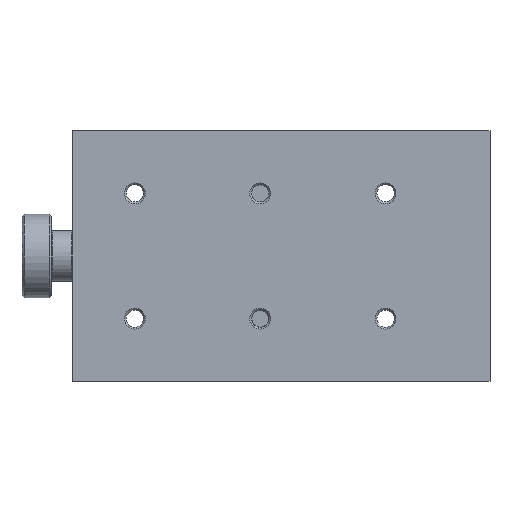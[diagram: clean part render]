
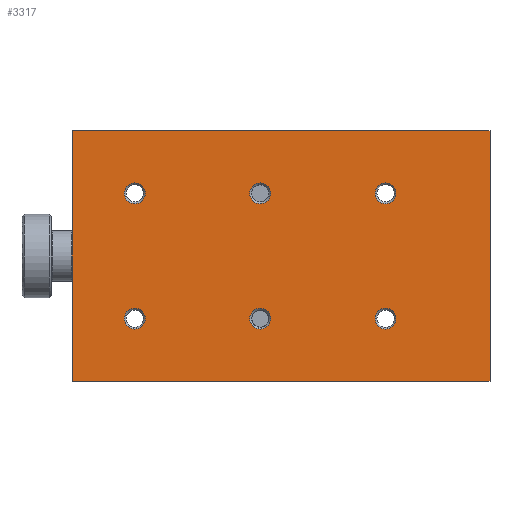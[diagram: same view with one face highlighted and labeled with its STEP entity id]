
A CAD part, front view. The second image highlights one B-rep face of the part: STEP entity #3317.
In plain terms, the highlighted planar face has unit normal (0, -1, 0).
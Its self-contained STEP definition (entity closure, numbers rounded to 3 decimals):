
#14 = LINE ( 'NONE', #4352, #62 ) ;
#62 = VECTOR ( 'NONE', #6006, 1000. ) ;
#156 = CARTESIAN_POINT ( 'NONE',  ( 75., 0., 17.5 ) ) ;
#166 = AXIS2_PLACEMENT_3D ( 'NONE', #4235, #6484, #228 ) ;
#197 = DIRECTION ( 'NONE',  ( 0., 0., 1. ) ) ;
#209 = CARTESIAN_POINT ( 'NONE',  ( 75., 0., 15. ) ) ;
#218 = ORIENTED_EDGE ( 'NONE', *, *, #6522, .T. ) ;
#225 = VERTEX_POINT ( 'NONE', #1789 ) ;
#228 = DIRECTION ( 'NONE',  ( 0., 0., 1. ) ) ;
#273 = ORIENTED_EDGE ( 'NONE', *, *, #6523, .T. ) ;
#294 = AXIS2_PLACEMENT_3D ( 'NONE', #2532, #2011, #4770 ) ;
#414 = CIRCLE ( 'NONE', #1100, 2.5 ) ;
#455 = CARTESIAN_POINT ( 'NONE',  ( 15., 0., -17.5 ) ) ;
#576 = DIRECTION ( 'NONE',  ( 0., 1., 0. ) ) ;
#657 = CARTESIAN_POINT ( 'NONE',  ( 15., 0., -12.5 ) ) ;
#687 = CIRCLE ( 'NONE', #5347, 2.5 ) ;
#699 = CARTESIAN_POINT ( 'NONE',  ( 75., 0., -15. ) ) ;
#748 = EDGE_LOOP ( 'NONE', ( #5829, #3201 ) ) ;
#788 = LINE ( 'NONE', #5235, #2913 ) ;
#823 = CARTESIAN_POINT ( 'NONE',  ( 0., 0., -30. ) ) ;
#848 = DIRECTION ( 'NONE',  ( 0., 1., 0. ) ) ;
#918 = CARTESIAN_POINT ( 'NONE',  ( 0., 0., 30. ) ) ;
#939 = EDGE_CURVE ( 'NONE', #3228, #4889, #14, .T. ) ;
#1058 = CIRCLE ( 'NONE', #1986, 2.5 ) ;
#1092 = DIRECTION ( 'NONE',  ( 0., 0., 1. ) ) ;
#1095 = DIRECTION ( 'NONE',  ( 0., 0., 1. ) ) ;
#1100 = AXIS2_PLACEMENT_3D ( 'NONE', #3848, #7103, #3382 ) ;
#1115 = DIRECTION ( 'NONE',  ( 0., 1., 0. ) ) ;
#1191 = VERTEX_POINT ( 'NONE', #1436 ) ;
#1246 = EDGE_CURVE ( 'NONE', #5126, #4408, #3604, .T. ) ;
#1382 = CARTESIAN_POINT ( 'NONE',  ( 45., 0., 12.5 ) ) ;
#1418 = EDGE_LOOP ( 'NONE', ( #5630, #2994, #3307, #3656 ) ) ;
#1436 = CARTESIAN_POINT ( 'NONE',  ( 75., 0., -12.5 ) ) ;
#1469 = FACE_BOUND ( 'NONE', #6043, .T. ) ;
#1653 = EDGE_CURVE ( 'NONE', #6603, #4889, #5481, .T. ) ;
#1672 = ORIENTED_EDGE ( 'NONE', *, *, #3951, .T. ) ;
#1726 = ORIENTED_EDGE ( 'NONE', *, *, #7126, .T. ) ;
#1789 = CARTESIAN_POINT ( 'NONE',  ( 0., 0., 30. ) ) ;
#1797 = VECTOR ( 'NONE', #3822, 1000. ) ;
#1905 = CARTESIAN_POINT ( 'NONE',  ( 75., 0., 12.5 ) ) ;
#1935 = VERTEX_POINT ( 'NONE', #1382 ) ;
#1962 = CARTESIAN_POINT ( 'NONE',  ( 45., 0., -15. ) ) ;
#1986 = AXIS2_PLACEMENT_3D ( 'NONE', #5874, #3325, #1092 ) ;
#2009 = EDGE_LOOP ( 'NONE', ( #5190, #218 ) ) ;
#2011 = DIRECTION ( 'NONE',  ( 0., 1., 0. ) ) ;
#2038 = DIRECTION ( 'NONE',  ( 0., 1., 0. ) ) ;
#2106 = PLANE ( 'NONE',  #5834 ) ;
#2240 = DIRECTION ( 'NONE',  ( 0., 1., 0. ) ) ;
#2301 = CARTESIAN_POINT ( 'NONE',  ( 75., 0., -15. ) ) ;
#2434 = DIRECTION ( 'NONE',  ( 1., 0., 0. ) ) ;
#2454 = CIRCLE ( 'NONE', #294, 2.5 ) ;
#2532 = CARTESIAN_POINT ( 'NONE',  ( 45., 0., -15. ) ) ;
#2565 = DIRECTION ( 'NONE',  ( 0., 0., 1. ) ) ;
#2570 = VERTEX_POINT ( 'NONE', #6294 ) ;
#2584 = VERTEX_POINT ( 'NONE', #1905 ) ;
#2668 = FACE_BOUND ( 'NONE', #2009, .T. ) ;
#2671 = LINE ( 'NONE', #3263, #1797 ) ;
#2762 = ORIENTED_EDGE ( 'NONE', *, *, #6256, .T. ) ;
#2767 = DIRECTION ( 'NONE',  ( 0., 0., 1. ) ) ;
#2913 = VECTOR ( 'NONE', #2434, 1000. ) ;
#2994 = ORIENTED_EDGE ( 'NONE', *, *, #1653, .T. ) ;
#3075 = CIRCLE ( 'NONE', #6116, 2.5 ) ;
#3139 = EDGE_LOOP ( 'NONE', ( #6329, #7064 ) ) ;
#3201 = ORIENTED_EDGE ( 'NONE', *, *, #4612, .T. ) ;
#3228 = VERTEX_POINT ( 'NONE', #5523 ) ;
#3239 = EDGE_CURVE ( 'NONE', #1935, #4542, #6757, .T. ) ;
#3263 = CARTESIAN_POINT ( 'NONE',  ( 0., 0., 30. ) ) ;
#3307 = ORIENTED_EDGE ( 'NONE', *, *, #939, .F. ) ;
#3314 = DIRECTION ( 'NONE',  ( 0., 0., 1. ) ) ;
#3317 = ADVANCED_FACE ( 'NONE', ( #2668, #1469, #3664, #5441, #5980, #7112, #5907 ), #2106, .F. ) ;
#3325 = DIRECTION ( 'NONE',  ( 0., 1., 0. ) ) ;
#3382 = DIRECTION ( 'NONE',  ( 0., 0., 1. ) ) ;
#3413 = AXIS2_PLACEMENT_3D ( 'NONE', #1962, #2038, #3579 ) ;
#3579 = DIRECTION ( 'NONE',  ( 0., 0., 1. ) ) ;
#3604 = CIRCLE ( 'NONE', #166, 2.5 ) ;
#3656 = ORIENTED_EDGE ( 'NONE', *, *, #4892, .F. ) ;
#3664 = FACE_BOUND ( 'NONE', #5525, .T. ) ;
#3822 = DIRECTION ( 'NONE',  ( 0., 0., -1. ) ) ;
#3848 = CARTESIAN_POINT ( 'NONE',  ( 45., 0., 15. ) ) ;
#3862 = EDGE_CURVE ( 'NONE', #2570, #5206, #4449, .T. ) ;
#3951 = EDGE_CURVE ( 'NONE', #5661, #4848, #2454, .T. ) ;
#4113 = CIRCLE ( 'NONE', #5643, 2.5 ) ;
#4235 = CARTESIAN_POINT ( 'NONE',  ( 15., 0., -15. ) ) ;
#4311 = CARTESIAN_POINT ( 'NONE',  ( 45., 0., 17.5 ) ) ;
#4352 = CARTESIAN_POINT ( 'NONE',  ( 100., 0., 30. ) ) ;
#4356 = VERTEX_POINT ( 'NONE', #156 ) ;
#4408 = VERTEX_POINT ( 'NONE', #657 ) ;
#4443 = VECTOR ( 'NONE', #4809, 1000. ) ;
#4449 = CIRCLE ( 'NONE', #4915, 2.5 ) ;
#4542 = VERTEX_POINT ( 'NONE', #4311 ) ;
#4568 = CARTESIAN_POINT ( 'NONE',  ( 15., 0., 17.5 ) ) ;
#4582 = DIRECTION ( 'NONE',  ( 0., 1., 0. ) ) ;
#4605 = DIRECTION ( 'NONE',  ( 0., 0., 1. ) ) ;
#4612 = EDGE_CURVE ( 'NONE', #4408, #5126, #687, .T. ) ;
#4622 = EDGE_CURVE ( 'NONE', #5206, #2570, #6273, .T. ) ;
#4656 = EDGE_LOOP ( 'NONE', ( #273, #1726 ) ) ;
#4770 = DIRECTION ( 'NONE',  ( 0., 0., 1. ) ) ;
#4799 = ORIENTED_EDGE ( 'NONE', *, *, #5088, .T. ) ;
#4809 = DIRECTION ( 'NONE',  ( 1., 0., 0. ) ) ;
#4848 = VERTEX_POINT ( 'NONE', #5746 ) ;
#4889 = VERTEX_POINT ( 'NONE', #5198 ) ;
#4892 = EDGE_CURVE ( 'NONE', #225, #3228, #788, .T. ) ;
#4915 = AXIS2_PLACEMENT_3D ( 'NONE', #5845, #848, #5304 ) ;
#5088 = EDGE_CURVE ( 'NONE', #2584, #4356, #1058, .T. ) ;
#5126 = VERTEX_POINT ( 'NONE', #455 ) ;
#5131 = DIRECTION ( 'NONE',  ( 0., 1., 0. ) ) ;
#5190 = ORIENTED_EDGE ( 'NONE', *, *, #3239, .T. ) ;
#5198 = CARTESIAN_POINT ( 'NONE',  ( 100., 0., -30. ) ) ;
#5206 = VERTEX_POINT ( 'NONE', #4568 ) ;
#5235 = CARTESIAN_POINT ( 'NONE',  ( 0., 0., 30. ) ) ;
#5263 = EDGE_CURVE ( 'NONE', #4356, #2584, #6525, .T. ) ;
#5304 = DIRECTION ( 'NONE',  ( 0., 0., 1. ) ) ;
#5347 = AXIS2_PLACEMENT_3D ( 'NONE', #6113, #1115, #3314 ) ;
#5366 = DIRECTION ( 'NONE',  ( 0., 1., 0. ) ) ;
#5441 = FACE_BOUND ( 'NONE', #4656, .T. ) ;
#5481 = LINE ( 'NONE', #7120, #4443 ) ;
#5523 = CARTESIAN_POINT ( 'NONE',  ( 100., 0., 30. ) ) ;
#5525 = EDGE_LOOP ( 'NONE', ( #4799, #7028 ) ) ;
#5569 = CARTESIAN_POINT ( 'NONE',  ( 15., 0., 15. ) ) ;
#5630 = ORIENTED_EDGE ( 'NONE', *, *, #6925, .T. ) ;
#5643 = AXIS2_PLACEMENT_3D ( 'NONE', #2301, #6231, #197 ) ;
#5661 = VERTEX_POINT ( 'NONE', #6084 ) ;
#5746 = CARTESIAN_POINT ( 'NONE',  ( 45., 0., -12.5 ) ) ;
#5829 = ORIENTED_EDGE ( 'NONE', *, *, #1246, .T. ) ;
#5834 = AXIS2_PLACEMENT_3D ( 'NONE', #918, #5366, #2565 ) ;
#5845 = CARTESIAN_POINT ( 'NONE',  ( 15., 0., 15. ) ) ;
#5874 = CARTESIAN_POINT ( 'NONE',  ( 75., 0., 15. ) ) ;
#5907 = FACE_OUTER_BOUND ( 'NONE', #1418, .T. ) ;
#5980 = FACE_BOUND ( 'NONE', #3139, .T. ) ;
#6006 = DIRECTION ( 'NONE',  ( 0., 0., -1. ) ) ;
#6043 = EDGE_LOOP ( 'NONE', ( #1672, #2762 ) ) ;
#6084 = CARTESIAN_POINT ( 'NONE',  ( 45., 0., -17.5 ) ) ;
#6113 = CARTESIAN_POINT ( 'NONE',  ( 15., 0., -15. ) ) ;
#6116 = AXIS2_PLACEMENT_3D ( 'NONE', #699, #5131, #1095 ) ;
#6181 = AXIS2_PLACEMENT_3D ( 'NONE', #6935, #4582, #6825 ) ;
#6231 = DIRECTION ( 'NONE',  ( 0., 1., 0. ) ) ;
#6256 = EDGE_CURVE ( 'NONE', #4848, #5661, #6909, .T. ) ;
#6273 = CIRCLE ( 'NONE', #6627, 2.5 ) ;
#6294 = CARTESIAN_POINT ( 'NONE',  ( 15., 0., 12.5 ) ) ;
#6329 = ORIENTED_EDGE ( 'NONE', *, *, #3862, .T. ) ;
#6484 = DIRECTION ( 'NONE',  ( 0., 1., 0. ) ) ;
#6522 = EDGE_CURVE ( 'NONE', #4542, #1935, #414, .T. ) ;
#6523 = EDGE_CURVE ( 'NONE', #6783, #1191, #4113, .T. ) ;
#6525 = CIRCLE ( 'NONE', #7098, 2.5 ) ;
#6603 = VERTEX_POINT ( 'NONE', #823 ) ;
#6627 = AXIS2_PLACEMENT_3D ( 'NONE', #5569, #576, #2767 ) ;
#6757 = CIRCLE ( 'NONE', #6181, 2.5 ) ;
#6783 = VERTEX_POINT ( 'NONE', #6889 ) ;
#6825 = DIRECTION ( 'NONE',  ( 0., 0., 1. ) ) ;
#6889 = CARTESIAN_POINT ( 'NONE',  ( 75., 0., -17.5 ) ) ;
#6909 = CIRCLE ( 'NONE', #3413, 2.5 ) ;
#6925 = EDGE_CURVE ( 'NONE', #225, #6603, #2671, .T. ) ;
#6935 = CARTESIAN_POINT ( 'NONE',  ( 45., 0., 15. ) ) ;
#7028 = ORIENTED_EDGE ( 'NONE', *, *, #5263, .T. ) ;
#7064 = ORIENTED_EDGE ( 'NONE', *, *, #4622, .T. ) ;
#7098 = AXIS2_PLACEMENT_3D ( 'NONE', #209, #2240, #4605 ) ;
#7103 = DIRECTION ( 'NONE',  ( 0., 1., 0. ) ) ;
#7112 = FACE_BOUND ( 'NONE', #748, .T. ) ;
#7120 = CARTESIAN_POINT ( 'NONE',  ( 0., 0., -30. ) ) ;
#7126 = EDGE_CURVE ( 'NONE', #1191, #6783, #3075, .T. ) ;
